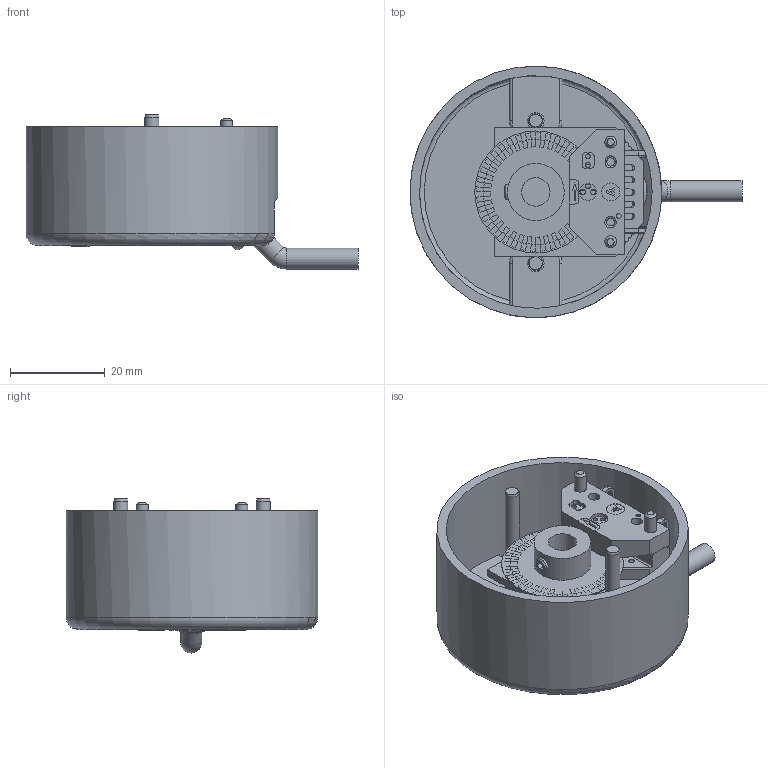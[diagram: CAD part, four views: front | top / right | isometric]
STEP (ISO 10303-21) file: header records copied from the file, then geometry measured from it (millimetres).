
FILE_DESCRIPTION(/* description */ ('Unknown'),/* implementation_level */ '2;1');
FILE_NAME(/* name */ 'EH30M',/* time_stamp */ '2022-05-05T11:03:51+02:00',/* author */ ('Unknown'),/* organization */ ('Unknown'),/* preprocessor_version */ 'ST-DEVELOPER v16.7',/* originating_system */ 'DEX',/* authorisation */ $);
FILE_SCHEMA (('AUTOMOTIVE_DESIGN {1 0 10303 214 3 1 1}'));
Length unit declared in the file: millimetre
Products named in the file (1): EH30M
Bounding box: 69.93 x 52.99 x 32.46 mm (x, y, z)
Volume: 17064.9 mm3; surface area: 22206 mm2
Topology: 23 solids, 23 shells, 2571 faces, 6885 edges, 4488 vertices
Faces by surface type: plane 2014, cylinder 461, torus 54, cone 23, bspline 13, sphere 6
Full cylindrical faces by diameter (mm): 0.33 x1, 0.392 x1, 0.425 x1, 0.8 x8, 1 x21, 1.016 x15, 1.1 x9, 1.194 x2, 2.39 x2, 2.4 x2, 2.423 x2, 2.438 x1, 2.45 x3, 2.47 x1, 2.5 x7, 2.769 x2, 3 x3, 3.5 x2, 3.556 x1, 3.81 x1, 4.4 x3, 5 x3, 5.35 x1, 6 x4, 6.1 x1, 6.5 x1, 7 x2, 7.4 x1, 8 x1, 9 x1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
Entity records: 91506 total; most frequent: CARTESIAN_POINT 14803, ORIENTED_EDGE 13318, DIRECTION 12677, EDGE_CURVE 6659, LINE 5513, VECTOR 5513, VERTEX_POINT 4446, AXIS2_PLACEMENT_3D 3582
